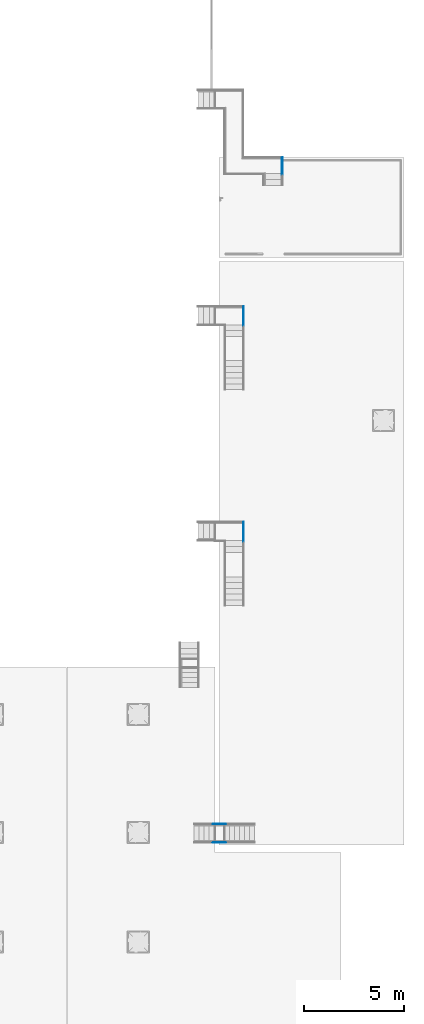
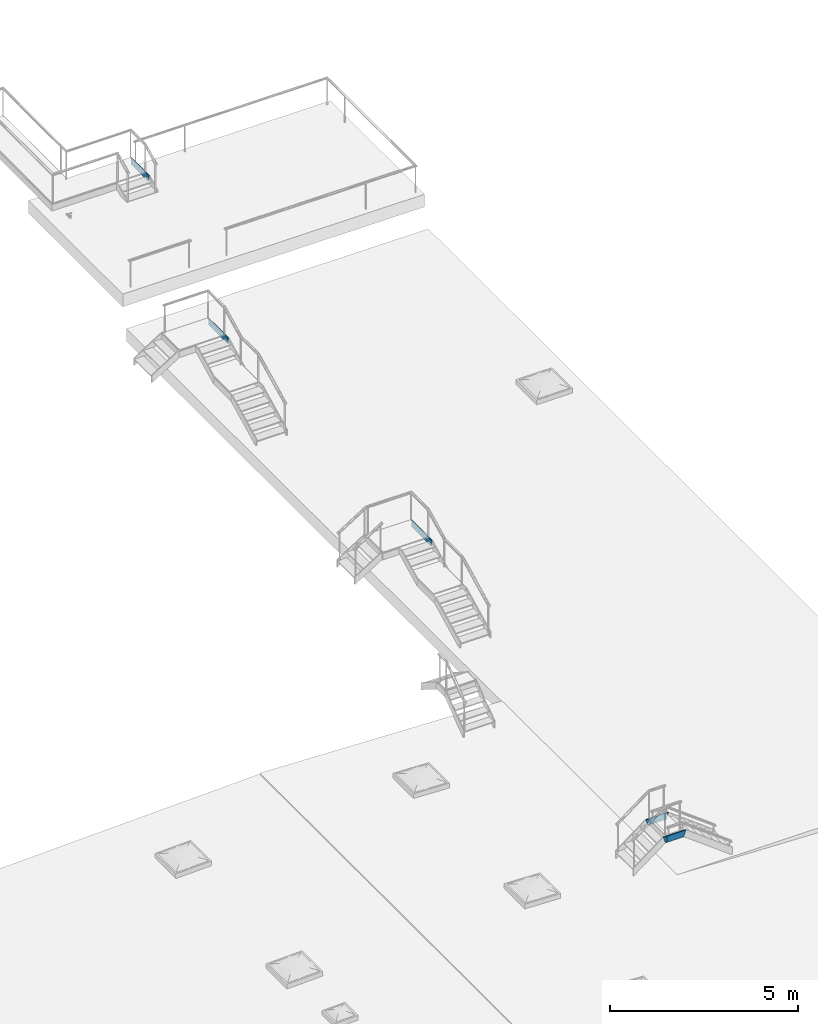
# One storey, part 4 of 15: 7 members, 5 elements without a shape of their own.
"""IFC2X3 building model written with IfcOpenShell, lengths in centimetres."""

from ifc_helpers import new_model, entity, si_unit, converted_unit, derived_unit, direction, frame, origin, place, context, subcontext, project, spatial, faceted_brep, material, type_object, element, aggregate, save


model = new_model("IFC2X3")

# Units and contexts
model_context = context("Model", 3, precision=0.001, world=origin(), true_north=direction((6.12303176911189e-17, 1.0)))
body_context = subcontext(model_context, "Body", "Model", "MODEL_VIEW")
ifc_project = project(units=[si_unit("LENGTHUNIT", "METRE", prefix="CENTI"), si_unit("AREAUNIT", "SQUARE_METRE"), si_unit("VOLUMEUNIT", "CUBIC_METRE"), converted_unit("PLANEANGLEUNIT", "DEGREE", entity("IfcRatioMeasure", 0.0174532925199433), si_unit("PLANEANGLEUNIT", "RADIAN"), dimensions=[0, 0, 0, 0, 0, 0, 0]), si_unit("MASSUNIT", "GRAM", prefix="KILO"), si_unit("TIMEUNIT", "SECOND"), si_unit("FREQUENCYUNIT", "HERTZ"), si_unit("THERMODYNAMICTEMPERATUREUNIT", "DEGREE_CELSIUS"), derived_unit("THERMALTRANSMITTANCEUNIT", [(si_unit("MASSUNIT", "GRAM", prefix="KILO"), 1), (si_unit("THERMODYNAMICTEMPERATUREUNIT", "KELVIN"), -1), (si_unit("TIMEUNIT", "SECOND"), -3)]), derived_unit("VOLUMETRICFLOWRATEUNIT", [(si_unit("LENGTHUNIT", "METRE"), 3), (si_unit("TIMEUNIT", "SECOND"), -1)]), si_unit("ELECTRICCURRENTUNIT", "AMPERE"), si_unit("ELECTRICVOLTAGEUNIT", "VOLT"), si_unit("POWERUNIT", "WATT"), si_unit("FORCEUNIT", "NEWTON", prefix="KILO"), si_unit("ILLUMINANCEUNIT", "LUX"), si_unit("LUMINOUSFLUXUNIT", "LUMEN"), si_unit("LUMINOUSINTENSITYUNIT", "CANDELA"), derived_unit("USERDEFINED", [(si_unit("MASSUNIT", "GRAM", prefix="KILO"), -1), (si_unit("LENGTHUNIT", "METRE"), -2), (si_unit("TIMEUNIT", "SECOND"), 3), (si_unit("LUMINOUSFLUXUNIT", "LUMEN"), 1)]), derived_unit("LINEARVELOCITYUNIT", [(si_unit("LENGTHUNIT", "METRE"), 1), (si_unit("TIMEUNIT", "SECOND"), -1)]), si_unit("PRESSUREUNIT", "PASCAL"), derived_unit("USERDEFINED", [(si_unit("LENGTHUNIT", "METRE"), -2), (si_unit("MASSUNIT", "GRAM", prefix="KILO"), 1), (si_unit("TIMEUNIT", "SECOND"), -2)])], contexts=[model_context])

# Site, building, storey
site_placement = place(None, frame((8.62739174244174, -249.285249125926, 0.0)))
site = spatial("IfcSite", under=ifc_project, at=site_placement, Name="Default", CompositionType="ELEMENT")
building_placement = place(site_placement, origin())
building = spatial("IfcBuilding", under=site, at=building_placement, CompositionType="ELEMENT")
storey_placement = place(building_placement, frame((0.0, 0.0, 801.0)))
storey = spatial("IfcBuildingStorey", under=building, at=storey_placement, Name="Acrotère E3", CompositionType="ELEMENT", Elevation=801.0)

# Stair, member
stair_1_placement = place(building_placement, frame((0.0, 0.0, 801.0)))
stair_1 = element("IfcStair", 1, at=stair_1_placement, inside=storey, Name="Escalier assemblé:Escalier", ShapeType="NOTDEFINED")
ifc_material = material(Name="Acier, 45-345")
member_type = type_object("IfcMemberType", Name="Limon à la française:Limon à la française - 30 mm", PredefinedType="STRINGER")
member_1_placement = place(stair_1_placement, frame((3173.90482781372, 4161.8904538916, 31.0)))
member_1 = element("IfcMember", 2, at=member_1_placement, type_object=member_type, material=ifc_material, Name="Escalier assemblé:Escalier:1444679 Stringer 8", ObjectType="Escalier assemblé:Escalier métallique", context=body_context, shape_type="Brep", body=[
    faceted_brep([(0.0, 0.0, 20.0), (3.0, 0.0, 20.0), (3.0, 111.584858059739, 20.0), (0.0, 108.584858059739, 20.0), (0.0, 4.73752981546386, 0.0), (0.0, 108.584858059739, 0.0), (3.0, 4.73752981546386, 0.0), (3.0, 111.584858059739, 0.0)], [[[0, 1, 2, 3]], [[4, 0, 3, 5]], [[6, 4, 5, 7]], [[1, 6, 7, 2]], [[2, 7, 5, 3]], [[1, 0, 4, 6]]]),
])
aggregate(stair_1, [member_1])

stair_2_placement = place(storey_placement, origin())
stair_2 = element("IfcStair", 3, at=stair_2_placement, inside=storey, Name="Escalier assemblé:Escalier", ShapeType="NOTDEFINED")
member_2_placement = place(stair_2_placement, frame((3173.90482780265, 5242.89237771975, 31.0)))
member_2 = element("IfcMember", 4, at=member_2_placement, type_object=member_type, material=ifc_material, Name="Escalier assemblé:Escalier:1453682 Stringer 8", ObjectType="Escalier assemblé:Escalier métallique", context=body_context, shape_type="Brep", body=[
    faceted_brep([(0.0, 0.0, 20.0), (3.0, 0.0, 20.0), (3.0, 108.58485805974, 20.0), (0.0, 105.58485805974, 20.0), (0.0, 4.73752981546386, 0.0), (0.0, 105.58485805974, 0.0), (3.0, 4.73752981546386, 0.0), (3.0, 108.58485805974, 0.0)], [[[0, 1, 2, 3]], [[4, 0, 3, 5]], [[6, 4, 5, 7]], [[1, 6, 7, 2]], [[2, 7, 5, 3]], [[1, 0, 4, 6]]]),
])
aggregate(stair_2, [member_2])

stair_3_placement = place(storey_placement, origin())
stair_3 = element("IfcStair", 5, at=stair_3_placement, inside=storey, Name="Escalier assemblé:Escalier", ShapeType="NOTDEFINED")
member_3_placement = place(stair_3_placement, frame((3367.90482780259, 5999.39535007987, 31.0)))
member_3 = element("IfcMember", 6, at=member_3_placement, type_object=member_type, material=ifc_material, Name="Escalier assemblé:Escalier:1453820 Stringer 9", ObjectType="Escalier assemblé:Escalier métallique", context=body_context, shape_type="Brep", body=[
    faceted_brep([(0.0, 0.0, 20.0), (3.0, 0.0, 20.0), (3.0, 98.5848580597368, 20.0), (0.0, 95.5848580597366, 20.0), (0.0, 4.73752981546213, 0.0), (0.0, 95.5848580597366, 0.0), (3.0, 4.73752981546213, 0.0), (3.0, 98.5848580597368, 0.0)], [[[0, 1, 2, 3]], [[4, 0, 3, 5]], [[6, 4, 5, 7]], [[1, 6, 7, 2]], [[2, 7, 5, 3]], [[1, 0, 4, 6]]]),
])
aggregate(stair_3, [member_3])

# Stair, members
stair_4_placement = place(building_placement, frame((0.0, 0.0, 801.0)))
stair_4 = element("IfcStair", 7, at=stair_4_placement, inside=storey, Name="Escalier assemblé:Escalier", ShapeType="NOTDEFINED")
member_4_placement = place(stair_4_placement, frame((3030.90482782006, 2757.98020806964, 31.0)))
member_4 = element("IfcMember", 8, at=member_4_placement, type_object=member_type, material=ifc_material, Name="Escalier assemblé:Escalier:1460621 Stringer 3", ObjectType="Escalier assemblé:Escalier métallique toiture", context=body_context, shape_type="Brep", body=[
    faceted_brep([(58.3740597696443, 0.0, 20.0), (58.3740597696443, 3.0, 20.0), (0.0, 3.0, 20.0), (3.0, 0.0, 20.0), (51.7175572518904, 0.0, 0.0), (3.0, 0.0, 0.0), (51.7175572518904, 3.0, 0.0), (0.0, 3.0, 0.0)], [[[0, 1, 2, 3]], [[4, 0, 3, 5]], [[6, 4, 5, 7]], [[1, 6, 7, 2]], [[2, 7, 5, 3]], [[1, 0, 4, 6]]]),
])
member_5_placement = place(stair_4_placement, frame((3030.90482782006, 2664.98020806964, 31.0)))
member_5 = element("IfcMember", 9, at=member_5_placement, type_object=member_type, material=ifc_material, Name="Escalier assemblé:Escalier:1460621 Stringer 5", ObjectType="Escalier assemblé:Escalier métallique toiture", context=body_context, shape_type="Brep", body=[
    faceted_brep([(3.0, 3.0, 20.0), (0.0, 0.0, 20.0), (58.3740597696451, 0.0, 20.0), (58.3740597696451, 3.0, 20.0), (3.0, 3.0, 0.0), (51.7175572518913, 3.0, 0.0), (0.0, 0.0, 0.0), (51.7175572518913, 0.0, 0.0)], [[[0, 1, 2, 3]], [[4, 0, 3, 5]], [[6, 4, 5, 7]], [[1, 6, 7, 2]], [[1, 0, 4, 6]], [[2, 7, 5, 3]]]),
])
aggregate(stair_4, [member_4, member_5])

stair_5_placement = place(building_placement, frame((0.0, 0.0, 801.0)))
stair_5 = element("IfcStair", 10, at=stair_5_placement, inside=storey, Name="Escalier assemblé:Escalier", ShapeType="NOTDEFINED")
member_6_placement = place(stair_5_placement, frame((3019.53076805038, 2757.98020806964, 31.0)))
member_6 = element("IfcMember", 11, at=member_6_placement, type_object=member_type, material=ifc_material, Name="Escalier assemblé:Escalier:1461006 Stringer 3", ObjectType="Escalier assemblé:Escalier métallique toiture", context=body_context, shape_type="Brep", body=[
    faceted_brep([(58.3740597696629, 0.0, 20.0), (61.3740597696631, 3.0, 20.0), (0.0, 3.0, 20.0), (0.0, 0.0, 20.0), (58.3740597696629, 0.0, 0.0), (6.65650251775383, 0.0, 0.0), (61.3740597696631, 3.0, 0.0), (6.65650251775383, 3.0, 0.0)], [[[0, 1, 2, 3]], [[4, 0, 3, 5]], [[6, 4, 5, 7]], [[1, 6, 7, 2]], [[1, 0, 4, 6]], [[2, 7, 5, 3]]]),
])
member_7_placement = place(stair_5_placement, frame((3019.53076805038, 2664.98020806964, 31.0)))
member_7 = element("IfcMember", 12, at=member_7_placement, type_object=member_type, material=ifc_material, Name="Escalier assemblé:Escalier:1461006 Stringer 4", ObjectType="Escalier assemblé:Escalier métallique toiture", context=body_context, shape_type="Brep", body=[
    faceted_brep([(0.0, 3.0, 20.0), (0.0, 0.0, 20.0), (61.3740597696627, 0.0, 20.0), (58.3740597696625, 3.0, 20.0), (6.65650251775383, 3.0, 0.0), (58.3740597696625, 3.0, 0.0), (6.65650251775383, 0.0, 0.0), (61.3740597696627, 0.0, 0.0)], [[[0, 1, 2, 3]], [[4, 0, 3, 5]], [[6, 4, 5, 7]], [[1, 6, 7, 2]], [[2, 7, 5, 3]], [[1, 0, 4, 6]]]),
])
aggregate(stair_5, [member_6, member_7])

save(model, "model.ifc")
